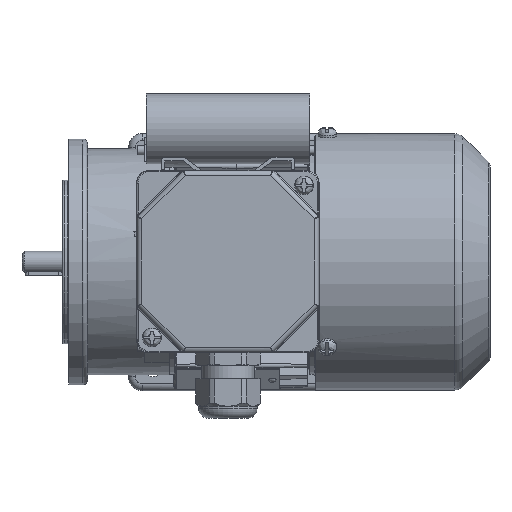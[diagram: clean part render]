
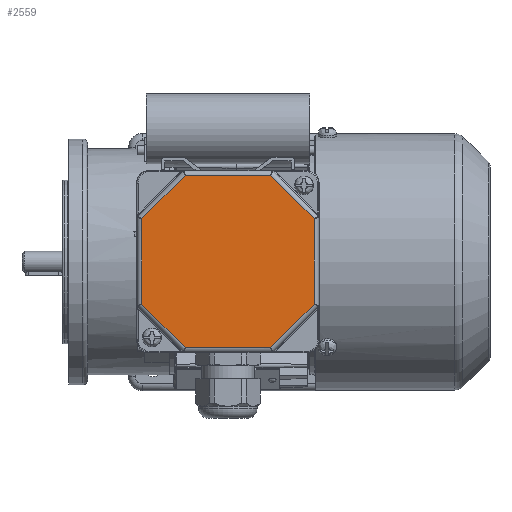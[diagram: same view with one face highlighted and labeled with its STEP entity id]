
A CAD part, top view. The second image highlights one B-rep face of the part: STEP entity #2559.
In plain terms, the highlighted planar face has unit normal (0, 0, 1).
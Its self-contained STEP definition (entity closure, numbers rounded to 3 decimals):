
#2559 = ADVANCED_FACE( '', ( #6270 ), #6271, .T. );
#6270 = FACE_OUTER_BOUND( '', #12298, .T. );
#6271 = PLANE( '', #12299 );
#12298 = EDGE_LOOP( '', ( #25280, #25281, #25282, #25283, #25284, #25285, #25286, #25287 ) );
#12299 = AXIS2_PLACEMENT_3D( '', #25288, #25289, #25290 );
#25280 = ORIENTED_EDGE( '', *, *, #40327, .T. );
#25281 = ORIENTED_EDGE( '', *, *, #40328, .T. );
#25282 = ORIENTED_EDGE( '', *, *, #40329, .T. );
#25283 = ORIENTED_EDGE( '', *, *, #40330, .T. );
#25284 = ORIENTED_EDGE( '', *, *, #40331, .T. );
#25285 = ORIENTED_EDGE( '', *, *, #40332, .T. );
#25286 = ORIENTED_EDGE( '', *, *, #40333, .T. );
#25287 = ORIENTED_EDGE( '', *, *, #40334, .T. );
#25288 = CARTESIAN_POINT( '', ( -39., 39., 12. ) );
#25289 = DIRECTION( '', ( 0., 0., 1. ) );
#25290 = DIRECTION( '', ( 1., 0., 0. ) );
#40327 = EDGE_CURVE( '', #47796, #47797, #47798, .F. );
#40328 = EDGE_CURVE( '', #47797, #47799, #47800, .T. );
#40329 = EDGE_CURVE( '', #47799, #47801, #47802, .F. );
#40330 = EDGE_CURVE( '', #47801, #47803, #47804, .T. );
#40331 = EDGE_CURVE( '', #47803, #47805, #47806, .F. );
#40332 = EDGE_CURVE( '', #47805, #47807, #47808, .T. );
#40333 = EDGE_CURVE( '', #47807, #47809, #47810, .F. );
#40334 = EDGE_CURVE( '', #47809, #47796, #47811, .T. );
#47796 = VERTEX_POINT( '', #57527 );
#47797 = VERTEX_POINT( '', #57528 );
#47798 = LINE( '', #57529, #57530 );
#47799 = VERTEX_POINT( '', #57531 );
#47800 = LINE( '', #57532, #57533 );
#47801 = VERTEX_POINT( '', #57534 );
#47802 = LINE( '', #57535, #57536 );
#47803 = VERTEX_POINT( '', #57537 );
#47804 = LINE( '', #57538, #57539 );
#47805 = VERTEX_POINT( '', #57540 );
#47806 = LINE( '', #57541, #57542 );
#47807 = VERTEX_POINT( '', #57543 );
#47808 = LINE( '', #57544, #57545 );
#47809 = VERTEX_POINT( '', #57546 );
#47810 = LINE( '', #57547, #57548 );
#47811 = LINE( '', #57549, #57550 );
#57527 = CARTESIAN_POINT( '', ( 36.825, -18.255, 12. ) );
#57528 = CARTESIAN_POINT( '', ( 36.825, 18.255, 12. ) );
#57529 = CARTESIAN_POINT( '', ( 36.825, 19.069, 12. ) );
#57530 = VECTOR( '', #74832, 1000. );
#57531 = CARTESIAN_POINT( '', ( 18.255, 36.825, 12. ) );
#57532 = CARTESIAN_POINT( '', ( 17.679, 37.401, 12. ) );
#57533 = VECTOR( '', #74833, 1000. );
#57534 = CARTESIAN_POINT( '', ( -18.255, 36.825, 12. ) );
#57535 = CARTESIAN_POINT( '', ( -19.069, 36.825, 12. ) );
#57536 = VECTOR( '', #74834, 1000. );
#57537 = CARTESIAN_POINT( '', ( -36.825, 18.255, 12. ) );
#57538 = CARTESIAN_POINT( '', ( -37.401, 17.679, 12. ) );
#57539 = VECTOR( '', #74835, 1000. );
#57540 = CARTESIAN_POINT( '', ( -36.825, -18.255, 12. ) );
#57541 = CARTESIAN_POINT( '', ( -36.825, -19.069, 12. ) );
#57542 = VECTOR( '', #74836, 1000. );
#57543 = CARTESIAN_POINT( '', ( -18.255, -36.825, 12. ) );
#57544 = CARTESIAN_POINT( '', ( -17.679, -37.401, 12. ) );
#57545 = VECTOR( '', #74837, 1000. );
#57546 = CARTESIAN_POINT( '', ( 18.255, -36.825, 12. ) );
#57547 = CARTESIAN_POINT( '', ( 19.069, -36.825, 12. ) );
#57548 = VECTOR( '', #74838, 1000. );
#57549 = CARTESIAN_POINT( '', ( 37.401, -17.679, 12. ) );
#57550 = VECTOR( '', #74839, 1000. );
#74832 = DIRECTION( '', ( 0., -1., 0. ) );
#74833 = DIRECTION( '', ( -0.707, 0.707, 0. ) );
#74834 = DIRECTION( '', ( 1., 0., 0. ) );
#74835 = DIRECTION( '', ( -0.707, -0.707, 0. ) );
#74836 = DIRECTION( '', ( 0., 1., 0. ) );
#74837 = DIRECTION( '', ( 0.707, -0.707, 0. ) );
#74838 = DIRECTION( '', ( -1., 0., 0. ) );
#74839 = DIRECTION( '', ( 0.707, 0.707, 0. ) );
